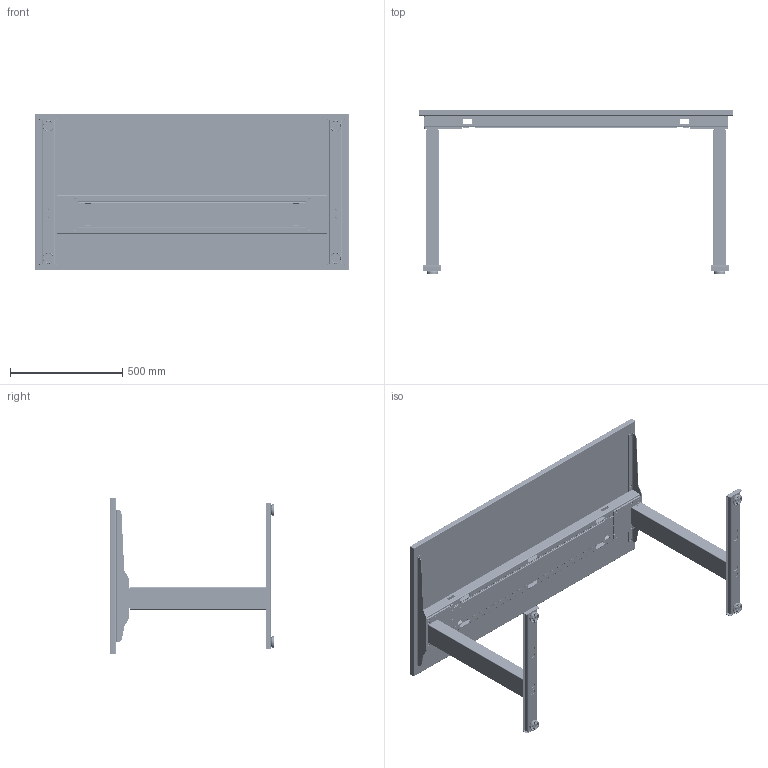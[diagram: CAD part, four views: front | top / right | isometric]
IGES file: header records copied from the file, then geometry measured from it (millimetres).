
Start section: SolidWorks IGES file using analytic representation for surfaces
Global section: file name: U:\Comercial\02 Produtos\1 Elevo\07 Modelo 3D\Mesa ELEVO Ret. Eletrica 1400x700.IGS; native system: SolidWorks 2018; preprocessor: SolidWorks 2018; author: juliano.brustolin; date: 181217.142007; units: millimetre
Bounding box: 1400 x 731.16 x 700 mm (x, y, z)
Surface area: 5371924.3 mm2 (no closed solid volume)
Topology: 0 solids, 0 shells, 3432 faces, 39752 edges, 39751 vertices
Faces by surface type: bspline 2100, revolution 1332
